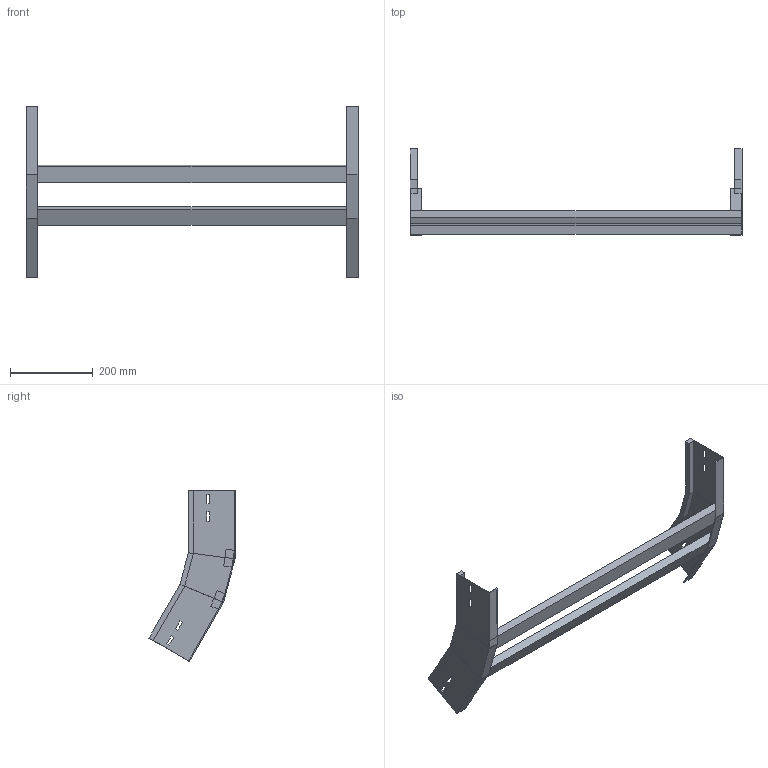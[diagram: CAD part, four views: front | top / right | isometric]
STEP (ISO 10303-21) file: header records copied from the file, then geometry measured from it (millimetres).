
FILE_DESCRIPTION (( 'STEP AP214' ), '1' );
FILE_NAME ('A2X32B3J800XX.step', '2025-03-20T09:59:31', ( '' ), ( '' ), 'SwSTEP 2.0', 'SolidWorks 2023', '' );
FILE_SCHEMA (( 'AUTOMOTIVE_DESIGN' ));
Length unit declared in the file: millimetre
Products named in the file (3): A2X32B3J800XX; TRAVERSINO_800; LONGH.SALITA_30°_H112.5_R300
Assembly tree (4 placements, depth 2):
  A2X32B3J800XX
    LONGH.SALITA_30°_H112.5_R300  x2
    TRAVERSINO_800  x2
Bounding box: 800 x 207.73 x 411.66 mm (x, y, z)
Volume: 1660668.9 mm3; surface area: 451058 mm2
Topology: 4 solids, 4 shells, 96 faces, 232 edges, 144 vertices
Faces by surface type: plane 96
Entity records: 1472 total; most frequent: CARTESIAN_POINT 243, ORIENTED_EDGE 232, DIRECTION 226, EDGE_CURVE 116, LINE 116, VECTOR 116, VERTEX_POINT 72, EDGE_LOOP 56
